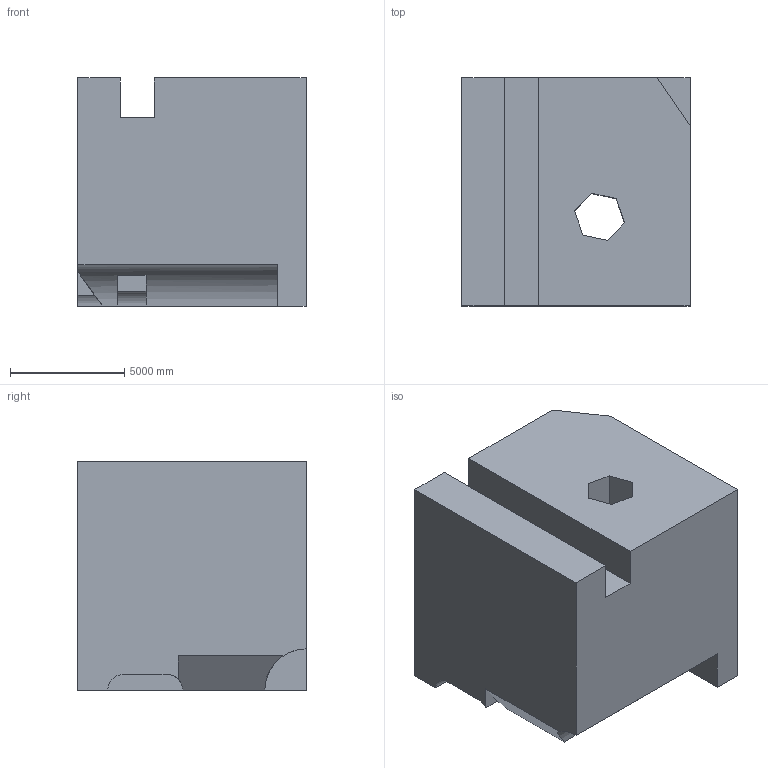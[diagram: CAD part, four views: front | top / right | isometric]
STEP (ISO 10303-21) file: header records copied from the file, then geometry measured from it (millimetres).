
FILE_DESCRIPTION (( 'STEP AP203' ), '1' );
FILE_NAME ('1919.STEP', '2022-08-23T09:28:52', ( 'user' ), ( '' ), 'SwSTEP 2.0', 'SolidWorks 2021', '' );
FILE_SCHEMA (( 'CONFIG_CONTROL_DESIGN' ));
Length unit declared in the file: centimetre
Products named in the file (1): 1919
Bounding box: 10000 x 10000 x 10000 mm (x, y, z)
Volume: 859187439959.4 mm3; surface area: 750794864.7 mm2
Topology: 1 solids, 1 shells, 48 faces, 129 edges, 86 vertices
Faces by surface type: plane 40, cylinder 8
Entity records: 1574 total; most frequent: CARTESIAN_POINT 270, ORIENTED_EDGE 258, DIRECTION 245, EDGE_CURVE 129, LINE 107, VECTOR 107, VERTEX_POINT 86, AXIS2_PLACEMENT_3D 69
